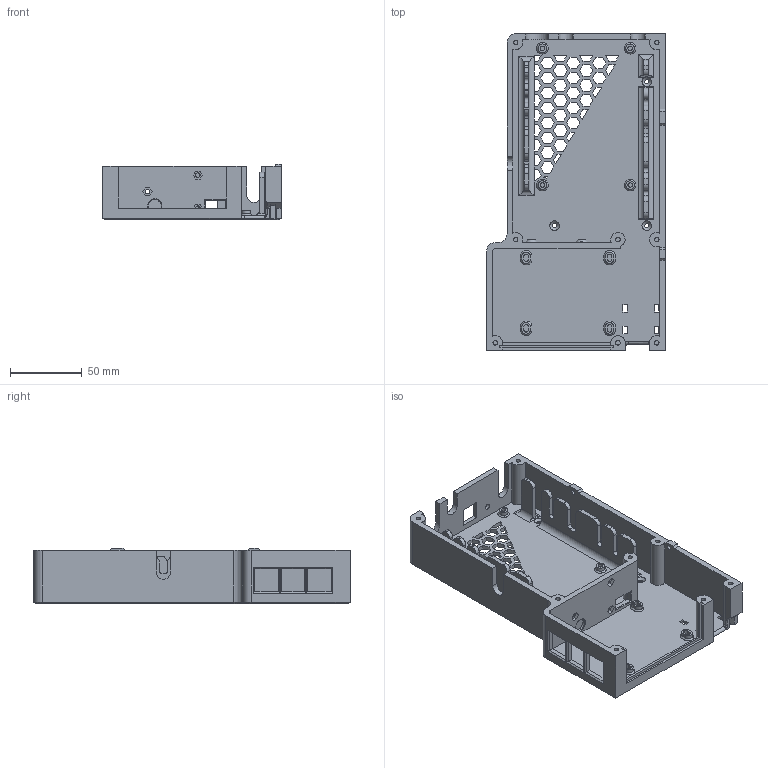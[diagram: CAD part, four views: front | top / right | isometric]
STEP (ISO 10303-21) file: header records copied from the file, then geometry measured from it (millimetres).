
FILE_DESCRIPTION( ( '' ), ' ' );
FILE_NAME( '/vol/tmp/translate-6430659871232589434/5e0a3a00f838ca159b755e70.step', '2019-12-30T17:55:13', ( '' ), ( '' ), ' ', ' ', ' ' );
FILE_SCHEMA( ( 'AUTOMOTIVE_DESIGN { 1 0 10303 214 1 1 1 1 }' ) );
Length unit declared in the file: metre
Products named in the file (1): Part 3
Bounding box: 124.25 x 219.68 x 38.5 mm (x, y, z)
Volume: 172479 mm3; surface area: 112670.4 mm2
Topology: 1 solids, 1 shells, 827 faces, 2168 edges, 1381 vertices
Faces by surface type: plane 680, cylinder 115, cone 27, bspline 3, torus 2
Full cylindrical faces by diameter (mm): 3.1 x20, 4 x1, 6 x4, 9 x1
Entity records: 32028 total; most frequent: CARTESIAN_POINT 4909, ORIENTED_EDGE 4234, DIRECTION 4011, EDGE_CURVE 2117, LINE 1843, VECTOR 1843, VERTEX_POINT 1372, AXIS2_PLACEMENT_3D 1084
